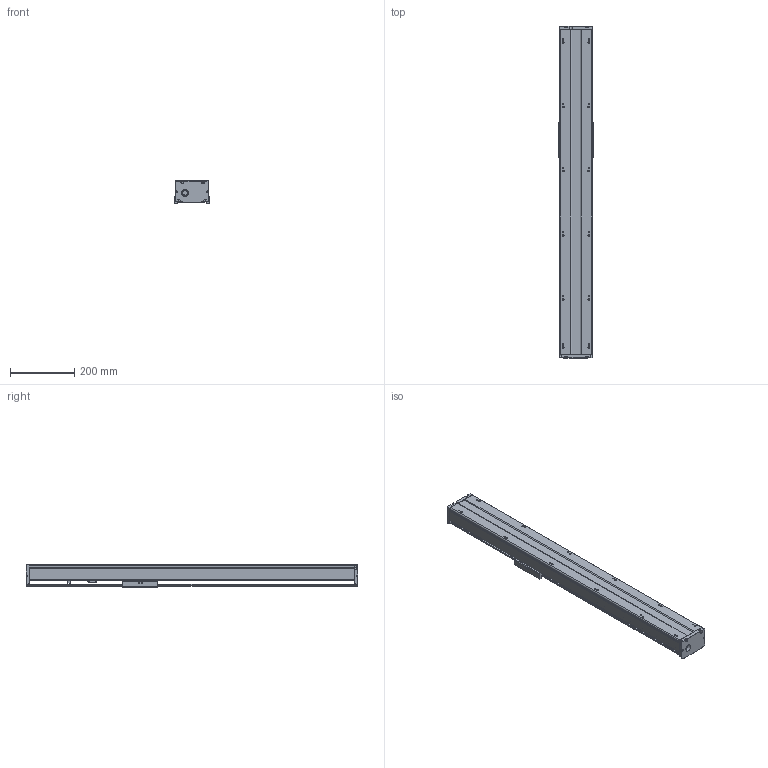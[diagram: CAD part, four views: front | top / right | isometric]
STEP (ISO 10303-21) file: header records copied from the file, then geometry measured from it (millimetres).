
FILE_DESCRIPTION(/* description */ (''),/* implementation_level */ '2;1');
FILE_NAME(/* name */ 'TKA100-650A1FI_asm1.stp',/* time_stamp */ '2017-02-21T08:55:29+08:00',/* author */ (''),/* organization */ (''),/* preprocessor_version */ 'ST-DEVELOPER v15',/* originating_system */ 'SIEMENS PLM Software NX 8.5',/* authorisation */ '');
FILE_SCHEMA (('AUTOMOTIVE_DESIGN { 1 0 10303 214 3 1 1 1 }'));
Length unit declared in the file: millimetre
Products named in the file (3): 200-02; 200-01; TKA100-650A1FI_asm1_stp
Assembly tree (2 placements, depth 2):
  TKA100-650A1FI_asm1_stp
    200-01
    200-02
Bounding box: 110 x 1034 x 71 mm (x, y, z)
Volume: 2191256.9 mm3; surface area: 710545.7 mm2
Topology: 2 solids, 9 shells, 859 faces, 2220 edges, 1407 vertices
Faces by surface type: plane 359, cylinder 291, cone 149, torus 34, bspline 26
Full cylindrical faces by diameter (mm): 2.5 x4, 2.6 x8, 3.3 x8, 3.4 x4, 3.8 x4, 4.2 x21, 4.3 x4, 4.5 x4, 5 x1, 5.5 x24, 6.6 x4, 8 x5, 9 x4, 10 x12, 11 x4, 12 x7, 15.3 x1, 16 x1, 22 x1, 24 x1, 28 x5, 30 x1
Entity records: 30542 total; most frequent: CARTESIAN_POINT 10564, DIRECTION 4150, ORIENTED_EDGE 3874, EDGE_CURVE 1937, AXIS2_PLACEMENT_3D 1604, VERTEX_POINT 1332, EDGE_LOOP 1153, LINE 942
